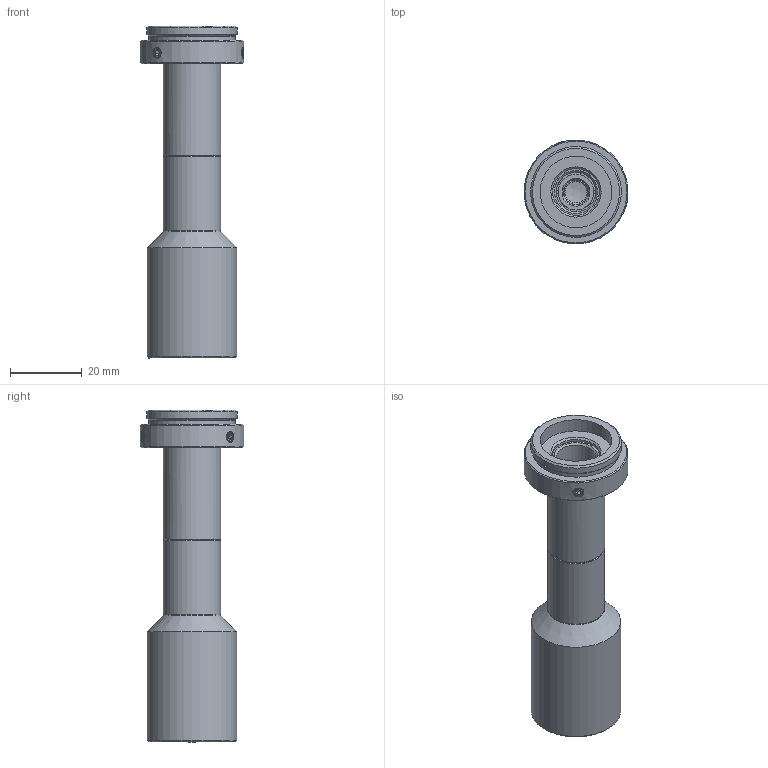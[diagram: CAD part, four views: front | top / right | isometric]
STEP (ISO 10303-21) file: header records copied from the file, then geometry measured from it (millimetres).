
FILE_DESCRIPTION(('STEP AP214'),'1');
FILE_NAME('RTK-08-M65.stp','2026-07-31T06:15:43',(' '),(' '),'Spatial InterOp 3D',' ',' ');
FILE_SCHEMA(('AUTOMOTIVE_DESIGN { 1 0 10303 214 1 1 1 1 }'));
Length unit declared in the file: metre
Products named in the file (2): RTK-08-M65; Component1
Assembly tree (1 placements, depth 2):
  RTK-08-M65
    Component1
Bounding box: 28.97 x 28.97 x 92.61 mm (x, y, z)
Volume: 18656.9 mm3; surface area: 14755.9 mm2
Topology: 1 solids, 9 shells, 198 faces, 430 edges, 283 vertices
Faces by surface type: cone 73, plane 70, cylinder 44, sphere 8, bspline 3
Full cylindrical faces by diameter (mm): 2.5 x3, 6 x1, 7 x1, 8.5 x3, 9.4 x1, 10 x2, 10.2 x1, 11 x1, 12 x1, 12.5 x1, 12.7 x1, 13 x3, 13.5 x1, 14 x1, 14.2 x1, 16 x4, 17.5 x1, 18 x1, 19 x3, 19.5 x1, 20 x1, 21.5 x3, 23 x1, 23.8 x1, 24.12 x1, 25 x1, 25.32 x1, 29 x1
Entity records: 6934 total; most frequent: CARTESIAN_POINT 1518, DIRECTION 810, ORIENTED_EDGE 584, AXIS2_PLACEMENT_3D 359, EDGE_LOOP 343, EDGE_CURVE 292, VERTEX_POINT 248, FACE_OUTER_BOUND 243
